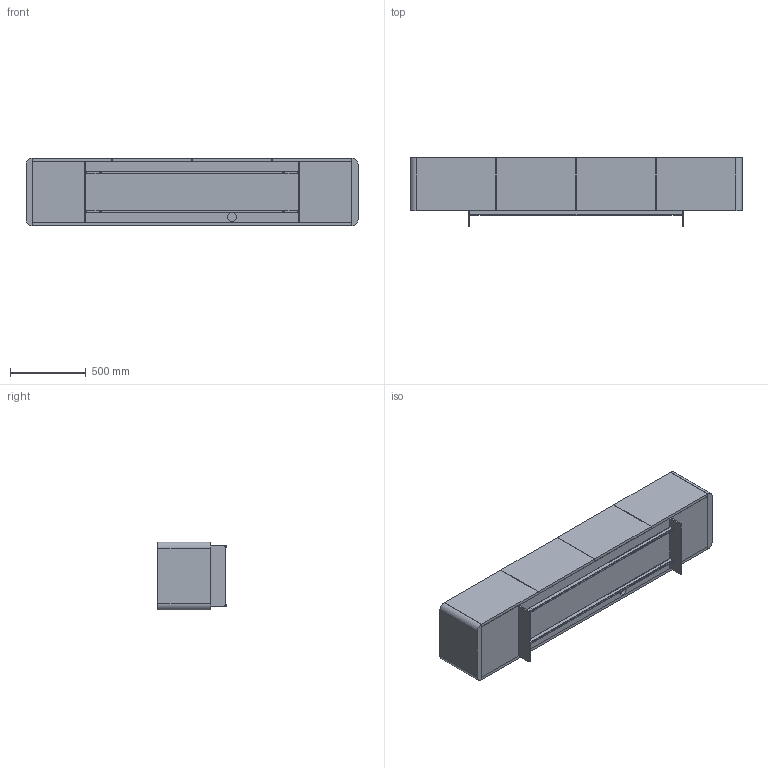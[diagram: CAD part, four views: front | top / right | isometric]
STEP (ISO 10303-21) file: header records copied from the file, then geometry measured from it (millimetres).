
FILE_DESCRIPTION (( 'STEP AP203' ), '1' );
FILE_NAME ('AL8LC_AL8DC_Alma TV Unit_220X45X45h_Top Ceramic.STEP', '2024-08-06T08:21:20', ( '' ), ( '' ), 'SwSTEP 2.0', 'SolidWorks 2022', '' );
FILE_SCHEMA (( 'CONFIG_CONTROL_DESIGN' ));
Length unit declared in the file: millimetre
Products named in the file (6): ALC00004-01-CONTENITORE MADIA ALMA L220 BASSO_RIVESTITA; AL1000XX-02-BASE MADIA ALMA METALLO VERNICIATO_AL100003-BASE L220cm; PIEDINO ALMA; AL8LC_AL8DC_Alma TV Unit_220X45X45h_Top Ceramic; KxxxX45-00-Piani Madie in ceramica_K220X45; M6xXXmm_HEX_M6x40mm HEX
Assembly tree (11 placements, depth 2):
  AL8LC_AL8DC_Alma TV Unit_220X45X45h_Top Ceramic
    KxxxX45-00-Piani Madie in ceramica_K220X45
    ALC00004-01-CONTENITORE MADIA ALMA L220 BASSO_RIVESTITA
    AL1000XX-02-BASE MADIA ALMA METALLO VERNICIATO_AL100003-BASE L220cm
    M6xXXmm_HEX_M6x40mm HEX  x4
    PIEDINO ALMA  x4
Bounding box: 2198 x 453 x 450 mm (x, y, z)
Volume: 99423021.2 mm3; surface area: 10811076.5 mm2
Topology: 25 solids, 25 shells, 387 faces, 875 edges, 522 vertices
Faces by surface type: plane 213, cylinder 106, cone 52, torus 16
Entity records: 8279 total; most frequent: CARTESIAN_POINT 1392, DIRECTION 1319, ORIENTED_EDGE 1210, EDGE_CURVE 605, AXIS2_PLACEMENT_3D 458, VECTOR 403, LINE 403, VERTEX_POINT 387
